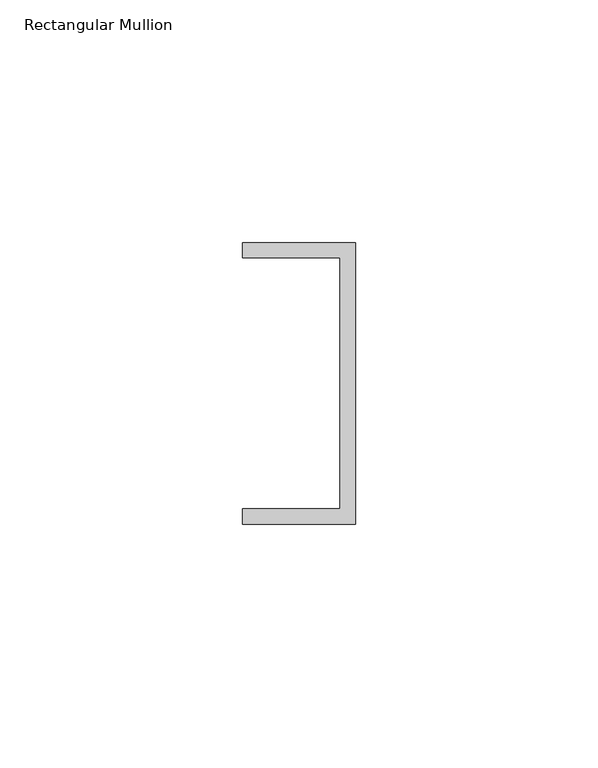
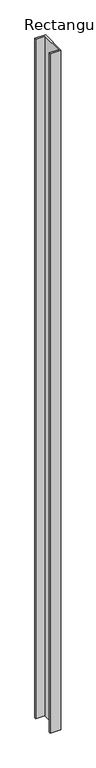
"""IFC4 building model written with IfcOpenShell, lengths in millimetres: member geometry, Rectangular Mullion : Frame-Teknion-Altos-Base_Channel."""

from ifc_helpers import new_model, si_unit, frame, origin, place, context, project, spatial, polyline, outline, extrude, source, transform, mapped, element, save


def rectangular_mullion_499ce15c(model_context):
    return source(origin(), model_context, "Body", "SweptSolid", [
        extrude(outline(polyline([(0.0, 29.0214844), (0.0, -29.0214844), (-23.3164063, -29.0214844), (-23.3164063, -25.8464844), (-3.175, -25.8464844), (-3.175, 25.8464844), (-23.3164063, 25.8464844), (-23.3164063, 29.0214844), (0.0, 29.0214844)])), frame((0.0, 0.0, -1569.640625), z_axis=(0.0, 0.0, 1.0), x_axis=(1.0, 0.0, 0.0)), (0.0, 0.0, 1.0), 1569.640625),
    ])


if __name__ == "__main__":
    model = new_model("IFC4")
    model_context = context("Model", 3, world=origin())
    ifc_project = project(units=[si_unit("LENGTHUNIT", "METRE", prefix="MILLI")], contexts=[model_context])
    site = spatial("IfcSite", under=ifc_project)
    building = spatial("IfcBuilding", under=site)
    placement = place(None, origin())
    rectangular_mullion_shape = rectangular_mullion_499ce15c(model_context)
    element("IfcMember", 1, ObjectType="Rectangular Mullion : Frame-Teknion-Altos-Base_Channel", at=placement, inside=building, context=model_context, shape_type="MappedRepresentation", body=[
        mapped(rectangular_mullion_shape, transform((0.0, 0.0, 0.0), x_axis=(1.0, 0.0, 0.0), y_axis=(0.0, 1.0, 0.0), z_axis=(0.0, 0.0, 1.0))),
    ])
    save(model, "model.ifc")
